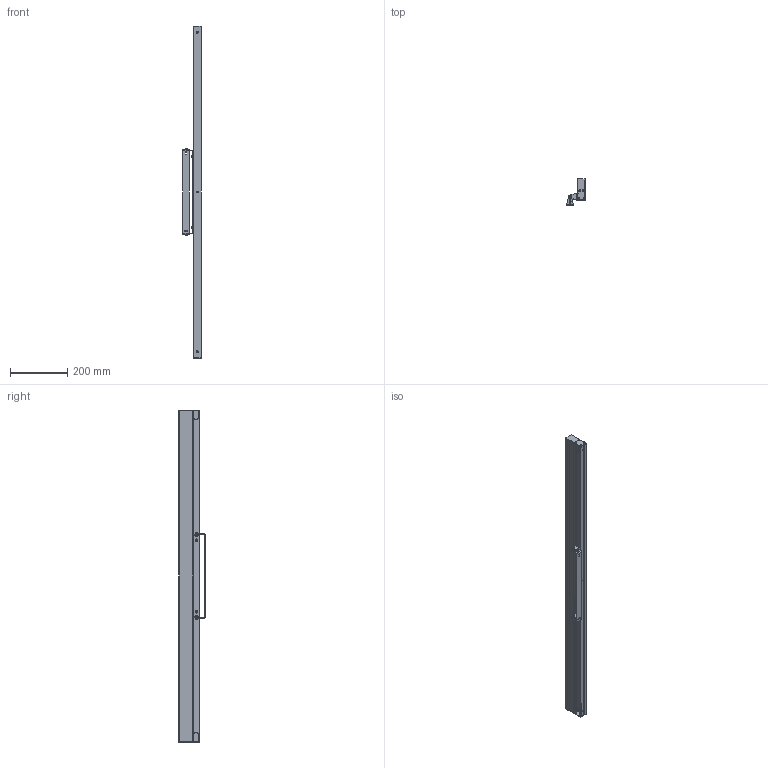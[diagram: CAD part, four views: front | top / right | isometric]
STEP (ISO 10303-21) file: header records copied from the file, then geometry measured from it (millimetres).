
FILE_DESCRIPTION(/* description */ ('Unknown'),/* implementation_level */ '2;1');
FILE_NAME(/* name */ '98844',/* time_stamp */ '2023-02-07T08:11:26-05:00',/* author */ ('Unknown'),/* organization */ ('Unknown'),/* preprocessor_version */ 'ST-DEVELOPER v18.1',/* originating_system */ 'Solid Edge',/* authorisation */ 'Unknown');
FILE_SCHEMA (('AUTOMOTIVE_DESIGN {1 0 10303 214 3 1 1}'));
Length unit declared in the file: millimetre
Products named in the file (11): CONTROCASSA WALL 2017; L-PR0022; L-PR0167; LED-VIT183; LED-RON001; LED-RON002; LED-DAD026; LED-TAP136; LED-STA508; LED-STA507; LED-VIT002
Assembly tree (26 placements, depth 2):
  CONTROCASSA WALL 2017
    L-PR0022
    L-PR0167
    LED-VIT183  x4
    LED-RON001  x2
    LED-RON002  x2
    LED-DAD026  x4
    LED-TAP136  x2
    LED-STA508
    LED-STA507
    LED-VIT002  x8
Bounding box: 64.75 x 91 x 1157 mm (x, y, z)
Volume: 473378.4 mm3; surface area: 583672.4 mm2
Topology: 26 solids, 26 shells, 1536 faces, 3819 edges, 2296 vertices
Faces by surface type: plane 715, cylinder 517, torus 164, sphere 64, cone 60, bspline 16
Full cylindrical faces by diameter (mm): 3 x8, 3.2 x8, 3.422 x4, 3.98 x4, 4 x10, 4.2 x6, 4.5 x2, 6 x5, 7 x4, 7.9 x2, 9 x2
Entity records: 22798 total; most frequent: CARTESIAN_POINT 4740, ORIENTED_EDGE 3482, DIRECTION 3448, EDGE_CURVE 1741, AXIS2_PLACEMENT_3D 1193, VERTEX_POINT 1149, LINE 1062, VECTOR 1062
